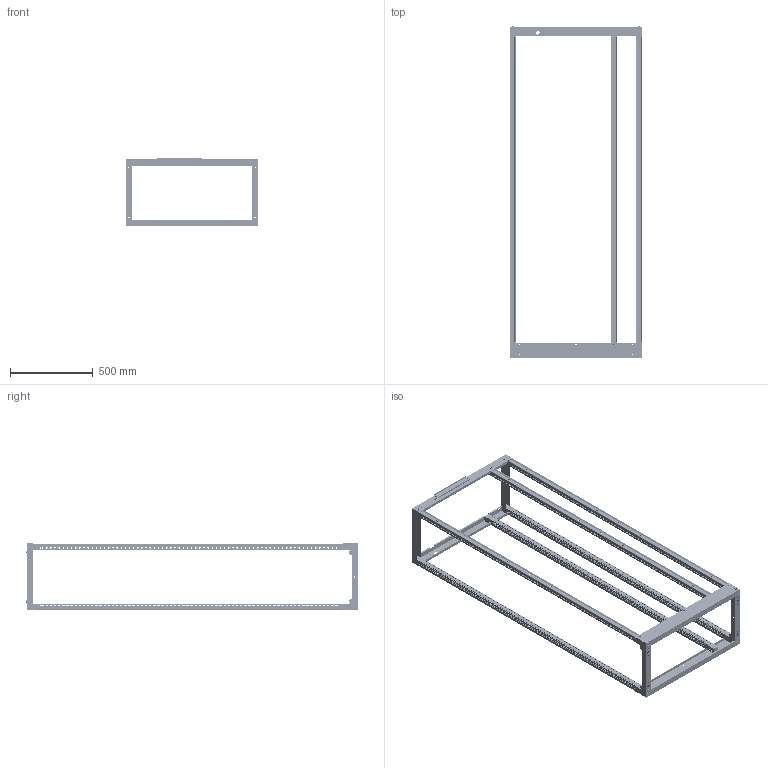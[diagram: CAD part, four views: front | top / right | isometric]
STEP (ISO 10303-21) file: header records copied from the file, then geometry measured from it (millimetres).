
FILE_DESCRIPTION((''),'2;1');
FILE_NAME('1618301474989_ASM','2021-04-13T13:41:41',('SESA176331'),('Schneider-Electric'),'CREO PARAMETRIC BY PTC INC, 2019164','CREO PARAMETRIC BY PTC INC, 2019164','');
FILE_SCHEMA(('AP242_MANAGED_MODEL_BASED_3D_ENGINEERING_MIM_LF { 1 0 10303 442 1 1 4 }'));
Products named in the file (20): EMPTYNODE_1618301475044_ASM; PRISMAP-CORNER-INF; PRISMAP-SIDEBAR-D400-INF; PRISMAP-UPRIGHT-H2000; PRISMAP-CORNER-SUP; PRISMAP-SIDEBAR-D400-SUP; PRISMAP-SIDEFRAME-D400_ASM; SETP-RL-SIDEFRAME-L650150-3D; SETP-RL-SIDEFRAME-L650150-3D_ASM; SETP-PRISMAP-SIDEFRAMEW800-SUP; SETP-PRISMAP-SIDEFRAMEW800-SUP_ASM; SETP-SIDEFRAME650-150-3D; SETP-SIDEFRAME650-150-3D_ASM; 469700000_PRT_1; 469702400; SETP-UPRIGHT_ASM; SETP-PRISMAP-PILLAR-W150-D400_ASM; SETP-LL-SIDEFRAME-L650150-3D; SETP-LL-SIDEFRAME-L650150-3D_ASM; 1618301474989_ASM
Assembly tree (26 placements, depth 4):
  1618301474989_ASM
    EMPTYNODE_1618301475044_ASM
    PRISMAP-SIDEFRAME-D400_ASM  x2
      PRISMAP-CORNER-INF
      PRISMAP-SIDEBAR-D400-INF
      PRISMAP-UPRIGHT-H2000
      PRISMAP-CORNER-SUP
      PRISMAP-SIDEBAR-D400-SUP
    SETP-RL-SIDEFRAME-L650150-3D_ASM
      SETP-RL-SIDEFRAME-L650150-3D
    SETP-PRISMAP-SIDEFRAMEW800-SUP_ASM
      SETP-PRISMAP-SIDEFRAMEW800-SUP
    SETP-SIDEFRAME650-150-3D_ASM
      SETP-SIDEFRAME650-150-3D
    SETP-PRISMAP-PILLAR-W150-D400_ASM  x2
      SETP-UPRIGHT_ASM
        469700000_PRT_1
        469702400
      PRISMAP-UPRIGHT-H2000
    SETP-LL-SIDEFRAME-L650150-3D_ASM
      SETP-LL-SIDEFRAME-L650150-3D
Bounding box: 800.25 x 2005 x 410.99 mm (x, y, z)
Volume: 4040444.4 mm3; surface area: 4515044.6 mm2
Topology: 38 solids, 50 shells, 12950 faces, 38482 edges, 25836 vertices
Faces by surface type: plane 10560, cylinder 2350, cone 24, torus 16
Entity records: 116880 total; most frequent: CARTESIAN_POINT 15721, ORIENTED_EDGE 15384, DIRECTION 14227, PRESENTATION_STYLE_ASSIGNMENT 7873, STYLED_ITEM 7765, CURVE_STYLE 7749, EDGE_CURVE 7698, VECTOR 6667
